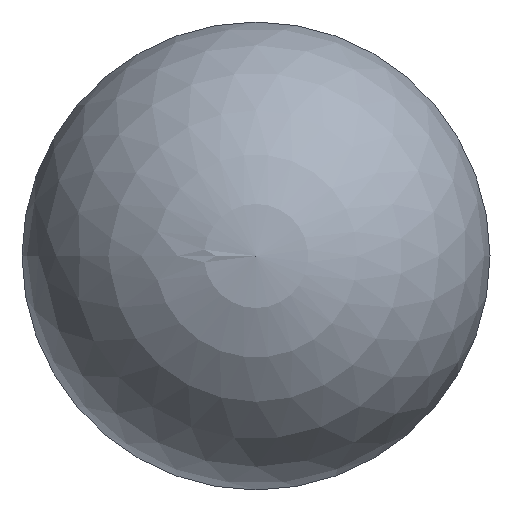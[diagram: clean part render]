
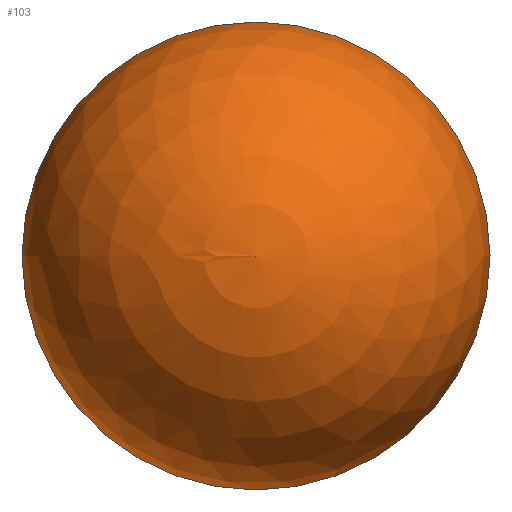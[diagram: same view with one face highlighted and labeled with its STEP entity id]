
A CAD part, left-side view. The second image highlights one B-rep face of the part: STEP entity #103.
In plain terms, the highlighted spherical face has radius 6 mm.
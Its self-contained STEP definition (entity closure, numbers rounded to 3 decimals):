
#101=SPHERICAL_SURFACE('',#134,6.);
#103=ADVANCED_FACE('',(#108),#101,.T.);
#108=FACE_OUTER_BOUND('',#110,.T.);
#110=EDGE_LOOP('',(#116));
#116=ORIENTED_EDGE('',*,*,#125,.F.);
#122=VERTEX_POINT('',#159);
#125=EDGE_CURVE('',#122,#122,#128,.T.);
#128=CIRCLE('',#133,6.);
#133=AXIS2_PLACEMENT_3D('',#158,#144,#145);
#134=AXIS2_PLACEMENT_3D('',#160,#146,#147);
#144=DIRECTION('',(1.,0.,0.));
#145=DIRECTION('',(0.,1.,0.));
#146=DIRECTION('',(1.,0.,0.));
#147=DIRECTION('',(0.,1.,0.));
#158=CARTESIAN_POINT('',(7872.207,6133.599,0.));
#159=CARTESIAN_POINT('',(7872.207,6139.599,0.));
#160=CARTESIAN_POINT('',(7872.21,6133.599,0.));
